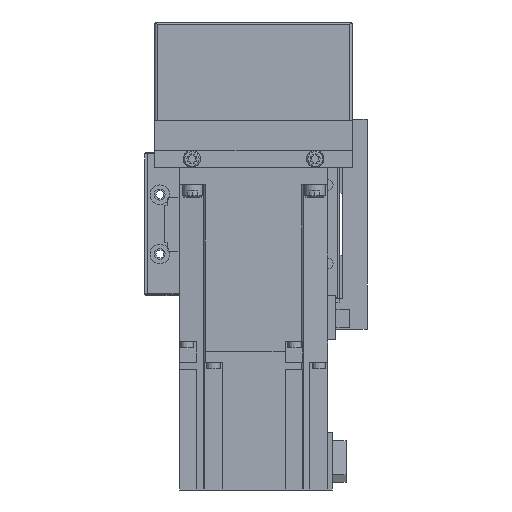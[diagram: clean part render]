
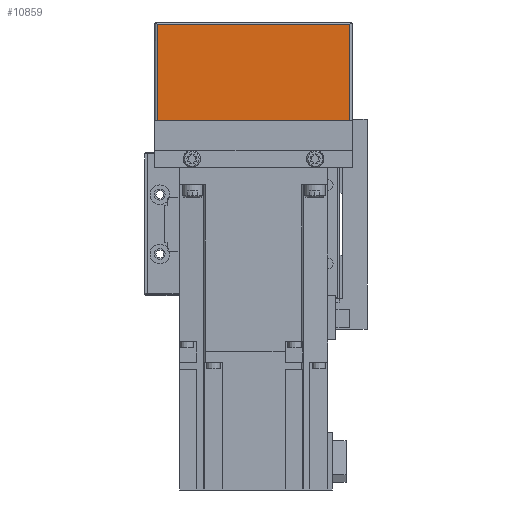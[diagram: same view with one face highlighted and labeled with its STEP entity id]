
A CAD part, left-side view. The second image highlights one B-rep face of the part: STEP entity #10859.
In plain terms, the highlighted planar face has unit normal (-1, 0, 0) as drawn and (0, 1, 0) by its records, which use the part's own axes.
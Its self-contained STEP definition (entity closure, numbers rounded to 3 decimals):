
#2538=ORIENTED_EDGE('',*,*,#4607,.T.);
#2539=ORIENTED_EDGE('',*,*,#4608,.T.);
#2540=ORIENTED_EDGE('',*,*,#4609,.F.);
#2541=ORIENTED_EDGE('',*,*,#4610,.T.);
#4607=EDGE_CURVE('',#5830,#5831,#6870,.T.);
#4608=EDGE_CURVE('',#5831,#5832,#6871,.T.);
#4609=EDGE_CURVE('',#5833,#5832,#6872,.T.);
#4610=EDGE_CURVE('',#5833,#5830,#6873,.T.);
#5830=VERTEX_POINT('',#17441);
#5831=VERTEX_POINT('',#17442);
#5832=VERTEX_POINT('',#17444);
#5833=VERTEX_POINT('',#17446);
#6870=LINE('',#17440,#7918);
#6871=LINE('',#17443,#7919);
#6872=LINE('',#17445,#7920);
#6873=LINE('',#17447,#7921);
#7918=VECTOR('',#14249,1000.);
#7919=VECTOR('',#14250,1000.);
#7920=VECTOR('',#14251,1000.);
#7921=VECTOR('',#14252,1000.);
#8907=EDGE_LOOP('',(#2538,#2539,#2540,#2541));
#9781=FACE_BOUND('',#8907,.T.);
#10329=PLANE('',#11847);
#10859=ADVANCED_FACE('',(#9781),#10329,.T.);
#11847=AXIS2_PLACEMENT_3D('',#17439,#14247,#14248);
#14247=DIRECTION('',(0.,1.,0.));
#14248=DIRECTION('',(0.,0.,1.));
#14249=DIRECTION('',(0.,0.,1.));
#14250=DIRECTION('',(1.,0.,0.));
#14251=DIRECTION('',(0.,0.,1.));
#14252=DIRECTION('',(-1.,0.,0.));
#17439=CARTESIAN_POINT('',(40.,151.,-52.));
#17440=CARTESIAN_POINT('',(-39.,151.,-64.));
#17441=CARTESIAN_POINT('',(-39.,151.,-51.));
#17442=CARTESIAN_POINT('',(-39.,151.,-12.01));
#17443=CARTESIAN_POINT('',(40.,151.,-12.01));
#17444=CARTESIAN_POINT('',(39.,151.,-12.01));
#17445=CARTESIAN_POINT('',(39.,151.,-64.));
#17446=CARTESIAN_POINT('',(39.,151.,-51.));
#17447=CARTESIAN_POINT('',(52.,151.,-51.));
